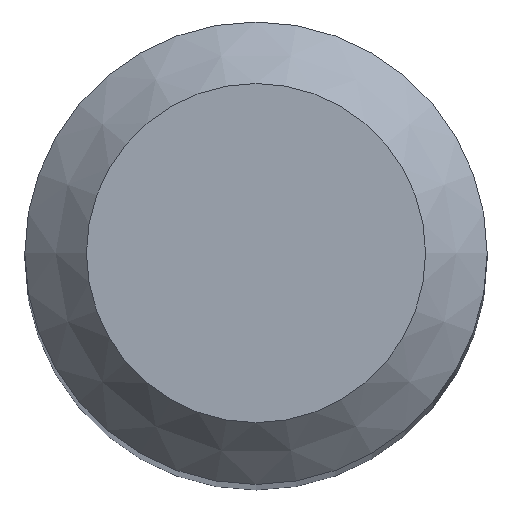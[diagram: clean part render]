
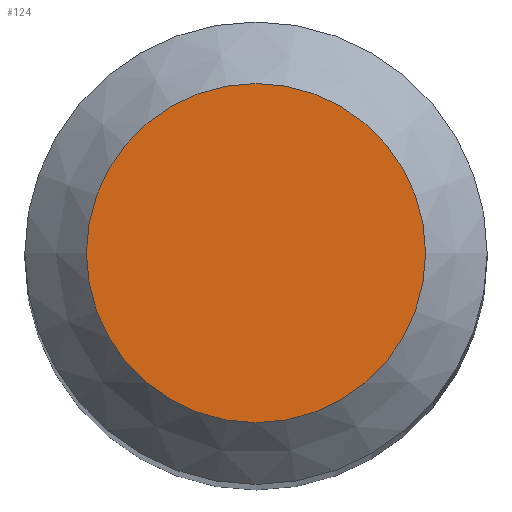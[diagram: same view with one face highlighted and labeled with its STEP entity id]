
A CAD part, top view. The second image highlights one B-rep face of the part: STEP entity #124.
In plain terms, the highlighted planar face has unit normal (0, 0, 1).
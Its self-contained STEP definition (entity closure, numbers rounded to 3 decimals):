
#108=CARTESIAN_POINT('',(2.2,0.0,63.0));
#109=DIRECTION('',(0.0,0.0,1.0));
#110=DIRECTION('',(1.0,0.0,0.0));
#111=AXIS2_PLACEMENT_3D('',#108,#109,#110);
#112=PLANE('',#111);
#113=CARTESIAN_POINT('',(-2.2,0.0,63.0));
#114=VERTEX_POINT('',#113);
#115=CARTESIAN_POINT('',(0.0,0.0,63.0));
#116=DIRECTION('',(0.0,0.0,-1.0));
#117=DIRECTION('',(-1.0,0.0,0.0));
#118=AXIS2_PLACEMENT_3D('',#115,#116,#117);
#119=CIRCLE('',#118,2.2);
#120=EDGE_CURVE('',#114,#114,#119,.T.);
#121=ORIENTED_EDGE('',*,*,#120,.F.);
#122=EDGE_LOOP('',(#121));
#123=FACE_OUTER_BOUND('',#122,.T.);
#124=ADVANCED_FACE('',(#123),#112,.T.);
